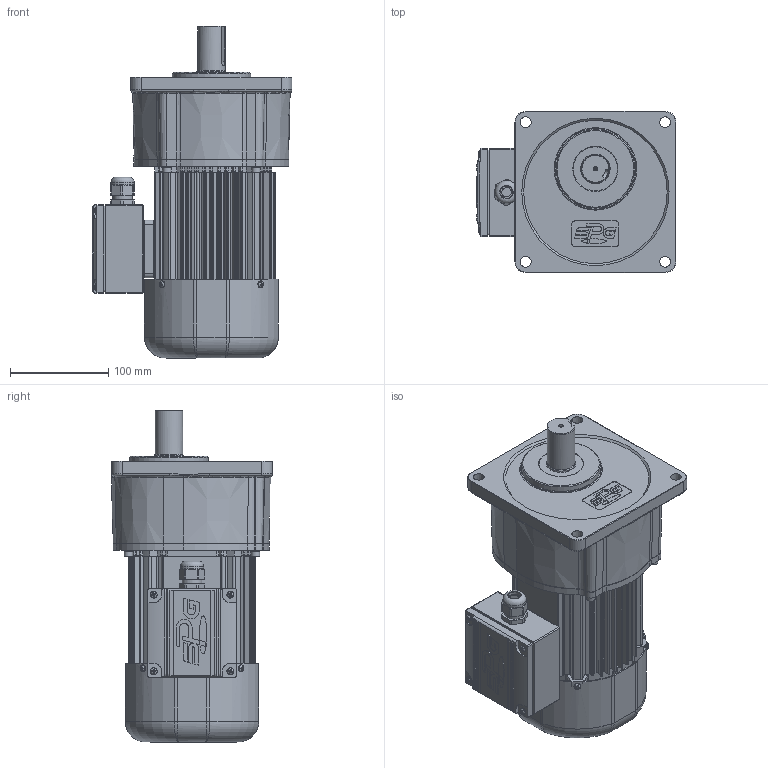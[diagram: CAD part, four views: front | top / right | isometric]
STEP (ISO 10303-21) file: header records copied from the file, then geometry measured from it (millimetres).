
FILE_DESCRIPTION(/* description */ (''),/* implementation_level */ '2;1');
FILE_NAME(/* name */ 'Z:\동력 3D 파일\PAK28_0.2kW_Brake_3D.stp',/* time_stamp */ '2021-11-09T08:37:06+09:00',/* author */ ('jaebok'),/* organization */ (''),/* preprocessor_version */ 'ST-DEVELOPER v18.1',/* originating_system */ 'Autodesk Inventor 2022',/* authorisation */ '');
FILE_SCHEMA (('AUTOMOTIVE_DESIGN { 1 0 10303 214 3 1 1 }'));
Products named in the file (1): 부품6
Bounding box: 203.5 x 164 x 338 mm (x, y, z)
Volume: 1895179.1 mm3; surface area: 561412.6 mm2
Topology: 3 solids, 35 shells, 2406 faces, 6101 edges, 3842 vertices
Faces by surface type: plane 1118, cylinder 758, bspline 197, cone 190, torus 113, sphere 30
Full cylindrical faces by diameter (mm): 1.5 x2, 2 x5, 3 x4, 3.242 x4, 3.25 x1, 3.3 x8, 3.6 x4, 3.8 x3, 4 x20, 4.2 x13, 4.917 x4, 5 x23, 5.5 x4, 5.8 x2, 5.9 x3, 6 x13, 6.4 x1, 6.5 x6, 7 x12, 7.9 x6, 8 x8, 8.5 x5, 8.7 x1, 10 x1, 12.5 x1, 15 x1, 16 x1, 19 x1, 20 x2, 21 x1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
Entity records: 84696 total; most frequent: CARTESIAN_POINT 24572, DIRECTION 12297, ORIENTED_EDGE 12094, EDGE_CURVE 6047, AXIS2_PLACEMENT_3D 4777, VERTEX_POINT 3836, LINE 2743, VECTOR 2743
